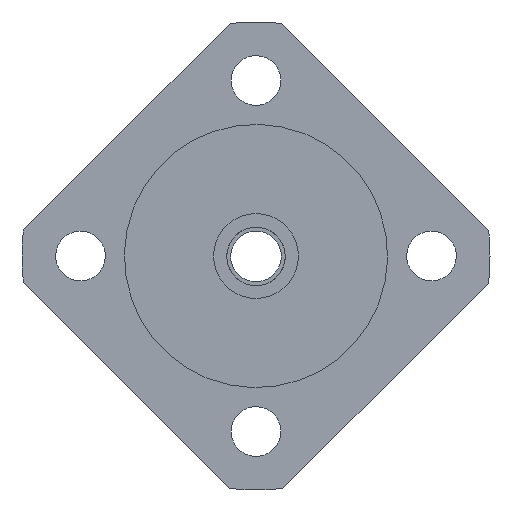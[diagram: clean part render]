
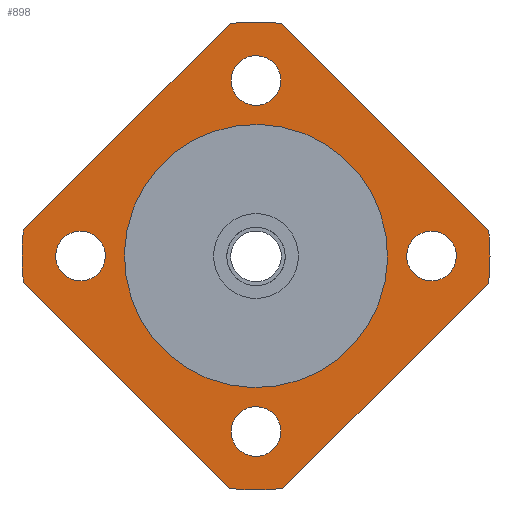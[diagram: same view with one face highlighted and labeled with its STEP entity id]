
A CAD part, left-side view. The second image highlights one B-rep face of the part: STEP entity #898.
In plain terms, the highlighted planar face has unit normal (-1, 0, 0).
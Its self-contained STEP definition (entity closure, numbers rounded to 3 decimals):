
#108=CARTESIAN_POINT('Axis2P3D Location',(-6.,0.,12.)) ;
#112=CARTESIAN_POINT('Vertex',(-6.,1.492,11.185)) ;
#114=CARTESIAN_POINT('Vertex',(-6.,-1.492,12.815)) ;
#134=CARTESIAN_POINT('Axis2P3D Location',(-6.,0.,12.)) ;
#164=CARTESIAN_POINT('Vertex',(-6.,-1.83,-15.895)) ;
#167=CARTESIAN_POINT('Axis2P3D Location',(-6.,0.,0.)) ;
#171=CARTESIAN_POINT('Vertex',(-6.,1.823,-15.896)) ;
#197=CARTESIAN_POINT('Vertex',(-6.,-15.892,-1.856)) ;
#200=CARTESIAN_POINT('Line Origine',(-6.,-8.861,-8.876)) ;
#228=CARTESIAN_POINT('Vertex',(-6.,-16.,0.)) ;
#231=CARTESIAN_POINT('Axis2P3D Location',(-6.,0.,0.)) ;
#254=CARTESIAN_POINT('Vertex',(-6.,-15.906,1.73)) ;
#257=CARTESIAN_POINT('Axis2P3D Location',(-6.,0.,0.)) ;
#280=CARTESIAN_POINT('Vertex',(-6.,-1.757,15.903)) ;
#283=CARTESIAN_POINT('Line Origine',(-6.,-8.831,8.817)) ;
#311=CARTESIAN_POINT('Vertex',(-6.,1.763,15.903)) ;
#314=CARTESIAN_POINT('Axis2P3D Location',(-6.,0.,0.)) ;
#337=CARTESIAN_POINT('Vertex',(-6.,15.9,1.79)) ;
#340=CARTESIAN_POINT('Line Origine',(-6.,8.831,8.846)) ;
#368=CARTESIAN_POINT('Vertex',(-6.,16.,0.)) ;
#371=CARTESIAN_POINT('Axis2P3D Location',(-6.,0.,0.)) ;
#394=CARTESIAN_POINT('Vertex',(-6.,15.899,-1.797)) ;
#397=CARTESIAN_POINT('Axis2P3D Location',(-6.,0.,0.)) ;
#414=CARTESIAN_POINT('Line Origine',(-6.,8.861,-8.846)) ;
#662=CARTESIAN_POINT('Vertex',(-6.,-4.315,-7.898)) ;
#665=CARTESIAN_POINT('Axis2P3D Location',(-6.,0.,0.)) ;
#669=CARTESIAN_POINT('Vertex',(-6.,4.315,7.898)) ;
#684=CARTESIAN_POINT('Axis2P3D Location',(-6.,0.,0.)) ;
#819=CARTESIAN_POINT('Axis2P3D Location',(-6.,0.,45.801)) ;
#844=CARTESIAN_POINT('Axis2P3D Location',(-6.,-12.,0.)) ;
#848=CARTESIAN_POINT('Vertex',(-6.,-11.185,1.492)) ;
#850=CARTESIAN_POINT('Vertex',(-6.,-12.815,-1.492)) ;
#853=CARTESIAN_POINT('Axis2P3D Location',(-6.,-12.,0.)) ;
#862=CARTESIAN_POINT('Axis2P3D Location',(-6.,0.,-12.)) ;
#866=CARTESIAN_POINT('Vertex',(-6.,-1.492,-11.185)) ;
#868=CARTESIAN_POINT('Vertex',(-6.,1.492,-12.815)) ;
#871=CARTESIAN_POINT('Axis2P3D Location',(-6.,0.,-12.)) ;
#880=CARTESIAN_POINT('Axis2P3D Location',(-6.,12.,0.)) ;
#884=CARTESIAN_POINT('Vertex',(-6.,11.185,-1.492)) ;
#886=CARTESIAN_POINT('Vertex',(-6.,12.815,1.492)) ;
#889=CARTESIAN_POINT('Axis2P3D Location',(-6.,12.,0.)) ;
#109=DIRECTION('Axis2P3D Direction',(-1.,0.,-0.)) ;
#135=DIRECTION('Axis2P3D Direction',(-1.,0.,-0.)) ;
#168=DIRECTION('Axis2P3D Direction',(1.,0.,0.)) ;
#201=DIRECTION('Vector Direction',(0.,-0.708,0.707)) ;
#232=DIRECTION('Axis2P3D Direction',(1.,0.,0.)) ;
#258=DIRECTION('Axis2P3D Direction',(1.,0.,0.)) ;
#284=DIRECTION('Vector Direction',(0.,0.707,0.708)) ;
#315=DIRECTION('Axis2P3D Direction',(1.,0.,0.)) ;
#341=DIRECTION('Vector Direction',(0.,0.708,-0.707)) ;
#372=DIRECTION('Axis2P3D Direction',(1.,0.,0.)) ;
#398=DIRECTION('Axis2P3D Direction',(1.,0.,0.)) ;
#415=DIRECTION('Vector Direction',(0.,-0.707,-0.708)) ;
#666=DIRECTION('Axis2P3D Direction',(-1.,0.,0.)) ;
#685=DIRECTION('Axis2P3D Direction',(-1.,0.,0.)) ;
#820=DIRECTION('Axis2P3D Direction',(-1.,0.,0.)) ;
#821=DIRECTION('Axis2P3D XDirection',(0.,1.,0.)) ;
#845=DIRECTION('Axis2P3D Direction',(-1.,0.,0.)) ;
#854=DIRECTION('Axis2P3D Direction',(-1.,0.,0.)) ;
#863=DIRECTION('Axis2P3D Direction',(-1.,0.,0.)) ;
#872=DIRECTION('Axis2P3D Direction',(-1.,0.,0.)) ;
#881=DIRECTION('Axis2P3D Direction',(-1.,0.,0.)) ;
#890=DIRECTION('Axis2P3D Direction',(-1.,0.,0.)) ;
#110=AXIS2_PLACEMENT_3D('Circle Axis2P3D',#108,#109,$) ;
#136=AXIS2_PLACEMENT_3D('Circle Axis2P3D',#134,#135,$) ;
#169=AXIS2_PLACEMENT_3D('Circle Axis2P3D',#167,#168,$) ;
#233=AXIS2_PLACEMENT_3D('Circle Axis2P3D',#231,#232,$) ;
#259=AXIS2_PLACEMENT_3D('Circle Axis2P3D',#257,#258,$) ;
#316=AXIS2_PLACEMENT_3D('Circle Axis2P3D',#314,#315,$) ;
#373=AXIS2_PLACEMENT_3D('Circle Axis2P3D',#371,#372,$) ;
#399=AXIS2_PLACEMENT_3D('Circle Axis2P3D',#397,#398,$) ;
#667=AXIS2_PLACEMENT_3D('Circle Axis2P3D',#665,#666,$) ;
#686=AXIS2_PLACEMENT_3D('Circle Axis2P3D',#684,#685,$) ;
#822=AXIS2_PLACEMENT_3D('Plane Axis2P3D',#819,#820,#821) ;
#846=AXIS2_PLACEMENT_3D('Circle Axis2P3D',#844,#845,$) ;
#855=AXIS2_PLACEMENT_3D('Circle Axis2P3D',#853,#854,$) ;
#864=AXIS2_PLACEMENT_3D('Circle Axis2P3D',#862,#863,$) ;
#873=AXIS2_PLACEMENT_3D('Circle Axis2P3D',#871,#872,$) ;
#882=AXIS2_PLACEMENT_3D('Circle Axis2P3D',#880,#881,$) ;
#891=AXIS2_PLACEMENT_3D('Circle Axis2P3D',#889,#890,$) ;
#825=ORIENTED_EDGE('',*,*,#173,.T.) ;
#826=ORIENTED_EDGE('',*,*,#204,.T.) ;
#827=ORIENTED_EDGE('',*,*,#235,.T.) ;
#828=ORIENTED_EDGE('',*,*,#261,.T.) ;
#829=ORIENTED_EDGE('',*,*,#287,.T.) ;
#830=ORIENTED_EDGE('',*,*,#318,.T.) ;
#831=ORIENTED_EDGE('',*,*,#344,.T.) ;
#832=ORIENTED_EDGE('',*,*,#375,.T.) ;
#833=ORIENTED_EDGE('',*,*,#401,.T.) ;
#834=ORIENTED_EDGE('',*,*,#418,.T.) ;
#837=ORIENTED_EDGE('',*,*,#116,.F.) ;
#838=ORIENTED_EDGE('',*,*,#138,.F.) ;
#841=ORIENTED_EDGE('',*,*,#688,.F.) ;
#842=ORIENTED_EDGE('',*,*,#671,.F.) ;
#859=ORIENTED_EDGE('',*,*,#852,.F.) ;
#860=ORIENTED_EDGE('',*,*,#857,.F.) ;
#877=ORIENTED_EDGE('',*,*,#870,.F.) ;
#878=ORIENTED_EDGE('',*,*,#875,.F.) ;
#895=ORIENTED_EDGE('',*,*,#888,.F.) ;
#896=ORIENTED_EDGE('',*,*,#893,.F.) ;
#839=FACE_BOUND('',#836,.T.) ;
#843=FACE_BOUND('',#840,.T.) ;
#861=FACE_BOUND('',#858,.T.) ;
#879=FACE_BOUND('',#876,.T.) ;
#897=FACE_BOUND('',#894,.T.) ;
#202=VECTOR('Line Direction',#201,1.) ;
#285=VECTOR('Line Direction',#284,1.) ;
#342=VECTOR('Line Direction',#341,1.) ;
#416=VECTOR('Line Direction',#415,1.) ;
#898=ADVANCED_FACE('FK4P5(H)',(#835,#839,#843,#861,#879,#897),#823,.T.) ;
#111=CIRCLE('generated circle',#110,1.7) ;
#137=CIRCLE('generated circle',#136,1.7) ;
#170=CIRCLE('generated circle',#169,16.) ;
#234=CIRCLE('generated circle',#233,16.) ;
#260=CIRCLE('generated circle',#259,16.) ;
#317=CIRCLE('generated circle',#316,16.) ;
#374=CIRCLE('generated circle',#373,16.) ;
#400=CIRCLE('generated circle',#399,16.) ;
#668=CIRCLE('generated circle',#667,9.) ;
#687=CIRCLE('generated circle',#686,9.) ;
#847=CIRCLE('generated circle',#846,1.7) ;
#856=CIRCLE('generated circle',#855,1.7) ;
#865=CIRCLE('generated circle',#864,1.7) ;
#874=CIRCLE('generated circle',#873,1.7) ;
#883=CIRCLE('generated circle',#882,1.7) ;
#892=CIRCLE('generated circle',#891,1.7) ;
#116=EDGE_CURVE('',#113,#115,#111,.T.) ;
#138=EDGE_CURVE('',#115,#113,#137,.T.) ;
#173=EDGE_CURVE('',#172,#165,#170,.F.) ;
#204=EDGE_CURVE('',#165,#198,#203,.T.) ;
#235=EDGE_CURVE('',#198,#229,#234,.F.) ;
#261=EDGE_CURVE('',#229,#255,#260,.F.) ;
#287=EDGE_CURVE('',#255,#281,#286,.T.) ;
#318=EDGE_CURVE('',#281,#312,#317,.F.) ;
#344=EDGE_CURVE('',#312,#338,#343,.T.) ;
#375=EDGE_CURVE('',#338,#369,#374,.F.) ;
#401=EDGE_CURVE('',#369,#395,#400,.F.) ;
#418=EDGE_CURVE('',#395,#172,#417,.T.) ;
#671=EDGE_CURVE('',#663,#670,#668,.T.) ;
#688=EDGE_CURVE('',#670,#663,#687,.T.) ;
#852=EDGE_CURVE('',#849,#851,#847,.T.) ;
#857=EDGE_CURVE('',#851,#849,#856,.T.) ;
#870=EDGE_CURVE('',#867,#869,#865,.T.) ;
#875=EDGE_CURVE('',#869,#867,#874,.T.) ;
#888=EDGE_CURVE('',#885,#887,#883,.T.) ;
#893=EDGE_CURVE('',#887,#885,#892,.T.) ;
#824=EDGE_LOOP('',(#825,#826,#827,#828,#829,#830,#831,#832,#833,#834)) ;
#836=EDGE_LOOP('',(#837,#838)) ;
#840=EDGE_LOOP('',(#841,#842)) ;
#858=EDGE_LOOP('',(#859,#860)) ;
#876=EDGE_LOOP('',(#877,#878)) ;
#894=EDGE_LOOP('',(#895,#896)) ;
#835=FACE_OUTER_BOUND('',#824,.T.) ;
#203=LINE('Line',#200,#202) ;
#286=LINE('Line',#283,#285) ;
#343=LINE('Line',#340,#342) ;
#417=LINE('Line',#414,#416) ;
#823=PLANE('Plane',#822) ;
#113=VERTEX_POINT('',#112) ;
#115=VERTEX_POINT('',#114) ;
#165=VERTEX_POINT('',#164) ;
#172=VERTEX_POINT('',#171) ;
#198=VERTEX_POINT('',#197) ;
#229=VERTEX_POINT('',#228) ;
#255=VERTEX_POINT('',#254) ;
#281=VERTEX_POINT('',#280) ;
#312=VERTEX_POINT('',#311) ;
#338=VERTEX_POINT('',#337) ;
#369=VERTEX_POINT('',#368) ;
#395=VERTEX_POINT('',#394) ;
#663=VERTEX_POINT('',#662) ;
#670=VERTEX_POINT('',#669) ;
#849=VERTEX_POINT('',#848) ;
#851=VERTEX_POINT('',#850) ;
#867=VERTEX_POINT('',#866) ;
#869=VERTEX_POINT('',#868) ;
#885=VERTEX_POINT('',#884) ;
#887=VERTEX_POINT('',#886) ;
